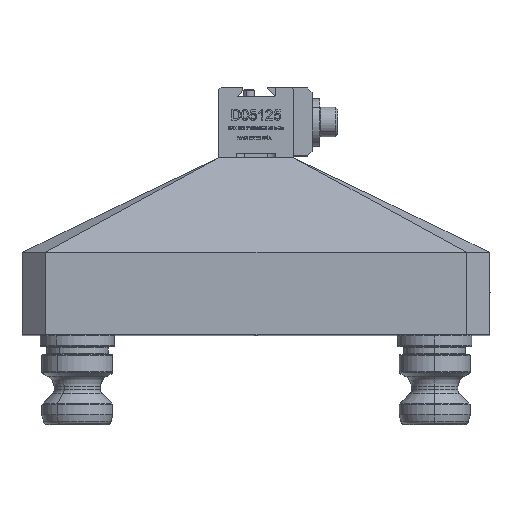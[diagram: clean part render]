
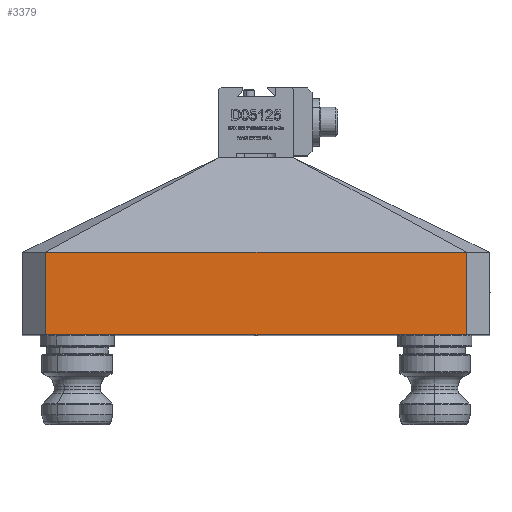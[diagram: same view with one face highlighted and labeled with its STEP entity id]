
A CAD part, top view. The second image highlights one B-rep face of the part: STEP entity #3379.
In plain terms, the highlighted planar face has unit normal (0, 0, 1).
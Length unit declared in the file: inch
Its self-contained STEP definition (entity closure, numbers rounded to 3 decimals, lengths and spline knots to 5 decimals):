
#266 = VERTEX_POINT ( 'NONE', #12318 ) ;
#3379 = ADVANCED_FACE ( 'NONE', ( #16360 ), #58417, .F. ) ;
#3615 = LINE ( 'NONE', #66128, #5714 ) ;
#4086 = CARTESIAN_POINT ( 'NONE',  ( -2.225, 1.95, 2.475 ) ) ;
#4692 = AXIS2_PLACEMENT_3D ( 'NONE', #18499, #38647, #17913 ) ;
#4948 = DIRECTION ( 'NONE',  ( 0., -1., 0. ) ) ;
#5179 = LINE ( 'NONE', #7113, #27549 ) ;
#5714 = VECTOR ( 'NONE', #25345, 39.37008 ) ;
#7113 = CARTESIAN_POINT ( 'NONE',  ( -2.475, 0., 2.475 ) ) ;
#7563 = ORIENTED_EDGE ( 'NONE', *, *, #43191, .F. ) ;
#10771 = CARTESIAN_POINT ( 'NONE',  ( -2.225, 0.875, 2.475 ) ) ;
#12318 = CARTESIAN_POINT ( 'NONE',  ( 2.225, 0., 2.475 ) ) ;
#13221 = CARTESIAN_POINT ( 'NONE',  ( 2.225, 0.875, 2.475 ) ) ;
#15147 = CARTESIAN_POINT ( 'NONE',  ( -2.225, 0.875, 2.475 ) ) ;
#16360 = FACE_OUTER_BOUND ( 'NONE', #59709, .T. ) ;
#17913 = DIRECTION ( 'NONE',  ( -1., 0., 0. ) ) ;
#18499 = CARTESIAN_POINT ( 'NONE',  ( -2.475, 1.95, 2.475 ) ) ;
#18719 = VERTEX_POINT ( 'NONE', #13221 ) ;
#25345 = DIRECTION ( 'NONE',  ( 0., 1., 0. ) ) ;
#26082 = EDGE_CURVE ( 'NONE', #42062, #266, #5179, .T. ) ;
#27019 = DIRECTION ( 'NONE',  ( 1., 0., 0. ) ) ;
#27549 = VECTOR ( 'NONE', #27019, 39.37008 ) ;
#30894 = ORIENTED_EDGE ( 'NONE', *, *, #53209, .T. ) ;
#36178 = CARTESIAN_POINT ( 'NONE',  ( -0.74167, 0.875, 2.475 ) ) ;
#38647 = DIRECTION ( 'NONE',  ( 0., 0., -1. ) ) ;
#42062 = VERTEX_POINT ( 'NONE', #61128 ) ;
#43191 = EDGE_CURVE ( 'NONE', #73594, #18719, #72119, .T. ) ;
#53209 = EDGE_CURVE ( 'NONE', #73594, #42062, #81302, .T. ) ;
#55945 = CARTESIAN_POINT ( 'NONE',  ( 2.225, 0.875, 2.475 ) ) ;
#58417 = PLANE ( 'NONE',  #4692 ) ;
#59709 = EDGE_LOOP ( 'NONE', ( #73249, #7563, #30894, #70540 ) ) ;
#61128 = CARTESIAN_POINT ( 'NONE',  ( -2.225, 0., 2.475 ) ) ;
#62435 = CARTESIAN_POINT ( 'NONE',  ( 0.74167, 0.875, 2.475 ) ) ;
#66128 = CARTESIAN_POINT ( 'NONE',  ( 2.225, 1.95, 2.475 ) ) ;
#70540 = ORIENTED_EDGE ( 'NONE', *, *, #26082, .T. ) ;
#72119 = B_SPLINE_CURVE_WITH_KNOTS ( 'NONE', 3,
 ( #15147, #36178, #62435, #55945 ),
 .UNSPECIFIED., .F., .F.,
 ( 4, 4 ),
 ( 0.05051, 0.94949 ),
 .UNSPECIFIED. ) ;
#73249 = ORIENTED_EDGE ( 'NONE', *, *, #84477, .T. ) ;
#73594 = VERTEX_POINT ( 'NONE', #10771 ) ;
#79162 = VECTOR ( 'NONE', #4948, 39.37008 ) ;
#81302 = LINE ( 'NONE', #4086, #79162 ) ;
#84477 = EDGE_CURVE ( 'NONE', #266, #18719, #3615, .T. ) ;
